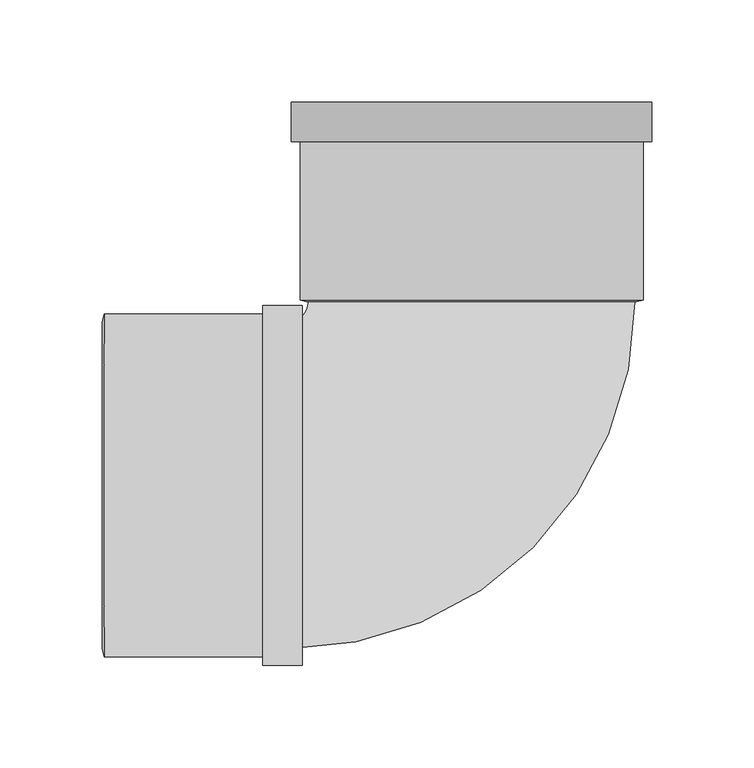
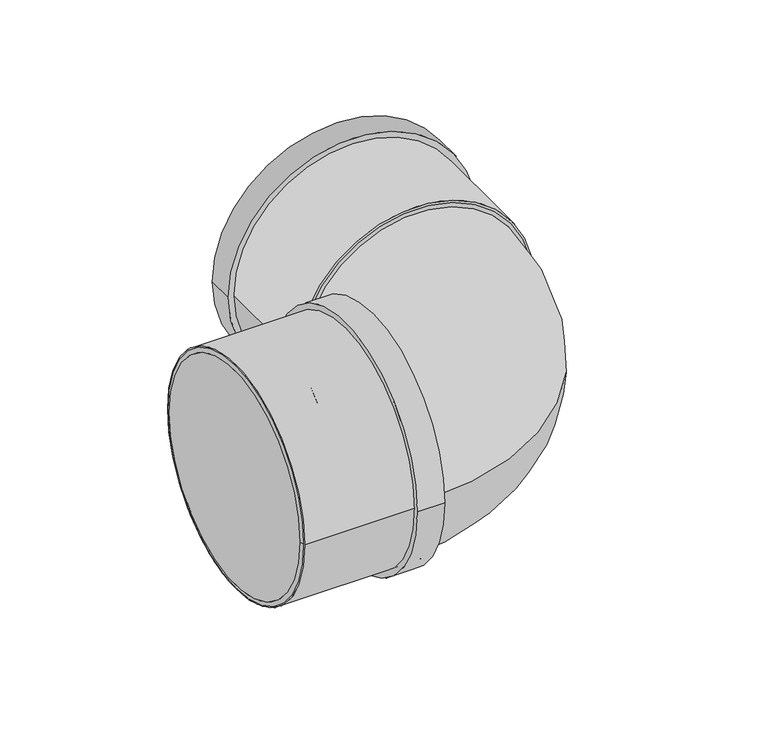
"""IFC4 building model written with IfcOpenShell, lengths in millimetres: pipe fitting geometry, Superdrain SK Bend_Composite 2x45 : Superdrain SK Bend_Composite 2x45."""

from ifc_helpers import new_model, si_unit, point, frame, origin, origin_2d, place, context, project, spatial, polyline, circle_curve, ellipse_curve, trimmed, segment, composite_curve, outline, extrude, source, transform, mapped, element, save
from ifc_brep_helpers import plane_surface, revolved_surface, advanced_brep


def pipe_fitting_a853ea9b(model_context):
    return source(origin(), model_context, "Body", "SolidModel", [
        extrude(outline(composite_curve([segment(trimmed(circle_curve(origin_2d(), 84.0), [point((84.0, 0.0))], [point((-84.0, 0.0))], False, "CARTESIAN"), True, "CONTINUOUS"), segment(trimmed(circle_curve(origin_2d(), 84.0), [point((-84.0, 0.0))], [point((84.0, 0.0))], False, "CARTESIAN"), True, "CONTINUOUS")], self_intersect=False), holes=[composite_curve([segment(trimmed(circle_curve(origin_2d(), 80.0), [point((80.0, 0.0))], [point((-80.0, 0.0))], True, "CARTESIAN"), True, "CONTINUOUS"), segment(trimmed(circle_curve(origin_2d(), 80.0), [point((-80.0, 0.0))], [point((80.0, 0.0))], True, "CARTESIAN"), True, "CONTINUOUS")], self_intersect=False)]), frame((-180.0, 0.0, 0.0), z_axis=(1.0, 0.0, 0.0), x_axis=(0.0, 1.0, 0.0)), (0.0, 0.0, 1.0), 97.0),
        extrude(outline(composite_curve([segment(trimmed(circle_curve(origin_2d(), 88.2), [point((88.2, 0.0))], [point((-88.2, 0.0))], False, "CARTESIAN"), True, "CONTINUOUS"), segment(trimmed(circle_curve(origin_2d(), 88.2), [point((-88.2, 0.0))], [point((88.2, 0.0))], False, "CARTESIAN"), True, "CONTINUOUS")], self_intersect=False), holes=[composite_curve([segment(trimmed(circle_curve(origin_2d(), 80.0), [point((80.0, 0.0))], [point((-80.0, 0.0))], True, "CARTESIAN"), True, "CONTINUOUS"), segment(trimmed(circle_curve(origin_2d(), 80.0), [point((-80.0, 0.0))], [point((80.0, 0.0))], True, "CARTESIAN"), True, "CONTINUOUS")], self_intersect=False)]), frame((-102.4, 0.0, 0.0), z_axis=(1.0, 0.0, 0.0), x_axis=(0.0, 1.0, 0.0)), (0.0, 0.0, 1.0), 19.4),
        advanced_brep(
        [(-181.0, 80.0, 0.0), (-181.0, -80.0, 0.0), (-180.0, 84.0, 0.0), (-180.0, -84.0, 0.0)],
        [
            (0, 1, circle_curve(frame((-181.0, 0.0, 0.0), z_axis=(-1.0, 0.0, 0.0), x_axis=(0.0, 1.0000000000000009, 0.0)), 80.0)),
            (1, 0, circle_curve(frame((-181.0, 0.0, 0.0), z_axis=(-1.0, 0.0, 0.0), x_axis=(0.0, -1.0000000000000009, 0.0)), 80.0)),
            (2, 3, circle_curve(frame((-180.0, 0.0, 0.0), z_axis=(1.0, 0.0, 0.0), x_axis=(0.0, -1.0000000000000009, 0.0)), 84.0)),
            (3, 2, circle_curve(frame((-180.0, 0.0, 0.0), z_axis=(1.0, 0.0, 0.0), x_axis=(0.0, 1.0000000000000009, 0.0)), 84.0)),
            (3, 1),
            (0, 2),
        ],
        [
            plane_surface(frame((-181.0, 0.0, 0.0), z_axis=(-1.0, 0.0, 0.0), x_axis=(0.0, 0.0, -1.0))),
            plane_surface(frame((-180.0, 0.0, 0.0), z_axis=(1.0, 0.0, 0.0), x_axis=(0.0, 0.0, -1.0))),
            revolved_surface(polyline([(-181.0, 79.99999999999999, 0.0), (-180.0, 84.0, 0.0)]), (-201.0, 0.0, 0.0), (1.0000000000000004, 0.0, 0.0)),
            revolved_surface(polyline([(-181.0, -79.99999999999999, 0.0), (-180.0, -84.0, 0.0)]), (-201.0, 0.0, 0.0), (1.0000000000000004, 0.0, 0.0)),
        ],
        [
            (0, [[1, 2]]),
            (1, [[3, 4]]),
            (2, [[-4, 5, -1, 6]]),
            (3, [[-3, -6, -2, -5]]),
        ],
    ),
        advanced_brep(
        [(80.0, 90.0, 0.0), (-80.0, 90.0, 0.0), (-90.0, -80.0, 0.0), (-90.0, 80.0, 0.0)],
        [
            (0, 1, circle_curve(frame((0.0, 90.0, 0.0), z_axis=(0.0, 1.0, 0.0), x_axis=(-1.0, 0.0, 0.0)), 80.0)),
            (1, 0, circle_curve(frame((0.0, 90.0, 0.0), z_axis=(0.0, 1.0, 0.0), x_axis=(-1.0, 0.0, 0.0)), 80.0)),
            (2, 3, circle_curve(frame((-90.0, 0.0, 0.0), z_axis=(-1.0, 0.0, 0.0), x_axis=(0.0, 1.0, 0.0)), 80.0)),
            (3, 2, circle_curve(frame((-90.0, 0.0, 0.0), z_axis=(-1.0, 0.0, 0.0), x_axis=(0.0, 1.0, 0.0)), 80.0)),
            (3, 1, circle_curve(frame((-90.0, 90.0, 0.0), z_axis=(0.0, 0.0, 1.0), x_axis=(1.0, 0.0, 0.0)), 10.0)),
            (0, 2, circle_curve(frame((-90.0, 90.0, 0.0), z_axis=(0.0, 0.0, -1.0), x_axis=(1.0, 0.0, 0.0)), 170.0)),
        ],
        [
            plane_surface(frame((0.0, 90.0, 0.0), z_axis=(0.0, 1.0, 0.0), x_axis=(0.0, 0.0, -1.0))),
            plane_surface(frame((-90.0, 0.0, 0.0), z_axis=(-1.0, 0.0, 0.0), x_axis=(0.0, 0.0, -1.0))),
            revolved_surface(trimmed(ellipse_curve(frame((0.0, 90.0, 0.0), z_axis=(0.0, -1.0, 0.0), x_axis=(-1.0, 0.0, 0.0)), 80.0, 80.0), [point((-80.0, 90.0, 0.0))], [point((80.0, 90.0, 0.0))], True, "CARTESIAN"), (-90.0, 90.0, 0.0), (0.0, 0.0, 1.0)),
            revolved_surface(trimmed(ellipse_curve(frame((0.0, 90.0, 0.0), z_axis=(0.0, -1.0, 0.0), x_axis=(-1.0, 0.0, 0.0)), 80.0, 80.0), [point((80.0, 90.0, 0.0))], [point((-80.0, 90.0, 0.0))], True, "CARTESIAN"), (-90.0, 90.0, 0.0), (0.0, 0.0, 1.0)),
        ],
        [
            (0, [[1, 2]]),
            (1, [[3, 4]]),
            (2, [[-4, 5, -1, 6]]),
            (3, [[-3, -6, -2, -5]]),
        ],
    ),
        extrude(outline(composite_curve([segment(trimmed(circle_curve(origin_2d(), 84.0), [point((0.0, 84.0))], [point((0.0, -84.0))], False, "CARTESIAN"), True, "CONTINUOUS"), segment(trimmed(circle_curve(origin_2d(), 84.0), [point((0.0, -84.0))], [point((0.0, 84.0))], False, "CARTESIAN"), True, "CONTINUOUS")], self_intersect=False), holes=[composite_curve([segment(trimmed(circle_curve(origin_2d(), 80.0), [point((0.0, 80.0))], [point((0.0, -80.0))], True, "CARTESIAN"), True, "CONTINUOUS"), segment(trimmed(circle_curve(origin_2d(), 80.0), [point((0.0, -80.0))], [point((0.0, 80.0))], True, "CARTESIAN"), True, "CONTINUOUS")], self_intersect=False)]), frame((0.0, 91.0, 0.0), z_axis=(0.0, 1.0, 0.0), x_axis=(0.0, 0.0, 1.0)), (0.0, 0.0, 1.0), 97.0),
        extrude(outline(composite_curve([segment(trimmed(circle_curve(origin_2d(), 88.2), [point((0.0, -88.2))], [point((0.0, 88.2))], False, "CARTESIAN"), True, "CONTINUOUS"), segment(trimmed(circle_curve(origin_2d(), 88.2), [point((0.0, 88.2))], [point((0.0, -88.2))], False, "CARTESIAN"), True, "CONTINUOUS")], self_intersect=False), holes=[composite_curve([segment(trimmed(circle_curve(origin_2d(), 80.0), [point((0.0, -80.0))], [point((0.0, 80.0))], True, "CARTESIAN"), True, "CONTINUOUS"), segment(trimmed(circle_curve(origin_2d(), 80.0), [point((0.0, 80.0))], [point((0.0, -80.0))], True, "CARTESIAN"), True, "CONTINUOUS")], self_intersect=False)]), frame((0.0, 168.6, 0.0), z_axis=(0.0, 1.0, 0.0), x_axis=(0.0, 0.0, 1.0)), (0.0, 0.0, 1.0), 19.4),
        advanced_brep(
        [(84.0, 91.0, 0.0), (-84.0, 91.0, 0.0), (80.0, 90.0, 0.0), (-80.0, 90.0, 0.0)],
        [
            (0, 1, circle_curve(frame((0.0, 91.0, 0.0), z_axis=(0.0, 1.0, 0.0), x_axis=(1.0, 0.0, 0.0)), 84.0)),
            (1, 0, circle_curve(frame((0.0, 91.0, 0.0), z_axis=(0.0, 1.0, 0.0), x_axis=(-1.0, 0.0, 0.0)), 84.0)),
            (2, 3, circle_curve(frame((0.0, 90.0, 0.0), z_axis=(0.0, -1.0, 0.0), x_axis=(-1.0, 0.0, 0.0)), 80.0)),
            (3, 2, circle_curve(frame((0.0, 90.0, 0.0), z_axis=(0.0, -1.0, 0.0), x_axis=(1.0, 0.0, 0.0)), 80.0)),
            (3, 1),
            (0, 2),
        ],
        [
            plane_surface(frame((0.0, 91.0, 0.0), z_axis=(0.0, 1.0, 0.0), x_axis=(0.0, 0.0, -1.0))),
            plane_surface(frame((0.0, 90.0, 0.0), z_axis=(0.0, -1.0, 0.0), x_axis=(0.0, 0.0, -1.0))),
            revolved_surface(polyline([(-80.0, 90.0, 0.0), (-84.0, 91.0, 0.0)]), (0.0, 70.0, 0.0), (0.0, 1.0, 0.0)),
            revolved_surface(polyline([(80.0, 90.0, 0.0), (84.0, 91.0, 0.0)]), (0.0, 70.0, 0.0), (0.0, 1.0, 0.0)),
        ],
        [
            (0, [[1, 2]]),
            (1, [[3, 4]]),
            (2, [[-4, 5, -1, 6]]),
            (3, [[-3, -6, -2, -5]]),
        ],
    ),
        extrude(outline(composite_curve([segment(trimmed(circle_curve(origin_2d(), 80.0), [point((-80.0, 0.0))], [point((80.0, 0.0))], False, "CARTESIAN"), True, "CONTINUOUS"), segment(trimmed(circle_curve(origin_2d(), 80.0), [point((80.0, 0.0))], [point((-80.0, 0.0))], False, "CARTESIAN"), True, "CONTINUOUS")], self_intersect=False)), frame((-180.0, 0.0, 0.0), z_axis=(1.0, 0.0, 0.0), x_axis=(0.0, 1.0, 0.0)), (0.0, 0.0, 1.0), 90.0),
    ])


if __name__ == "__main__":
    model = new_model("IFC4")
    model_context = context("Model", 3, world=origin())
    ifc_project = project(units=[si_unit("LENGTHUNIT", "METRE", prefix="MILLI")], contexts=[model_context])
    site = spatial("IfcSite", under=ifc_project)
    building = spatial("IfcBuilding", under=site)
    placement = place(None, origin())
    pipe_fitting_shape = pipe_fitting_a853ea9b(model_context)
    element("IfcPipeFitting", 1, ObjectType="Superdrain SK Bend_Composite 2x45 : Superdrain SK Bend_Composite 2x45", at=placement, inside=building, context=model_context, shape_type="MappedRepresentation", body=[
        mapped(pipe_fitting_shape, transform((0.0, 0.0, 0.0), x_axis=(1.0, 0.0, 0.0), y_axis=(0.0, 1.0, 0.0), z_axis=(0.0, 0.0, 1.0))),
    ])
    save(model, "model.ifc")
